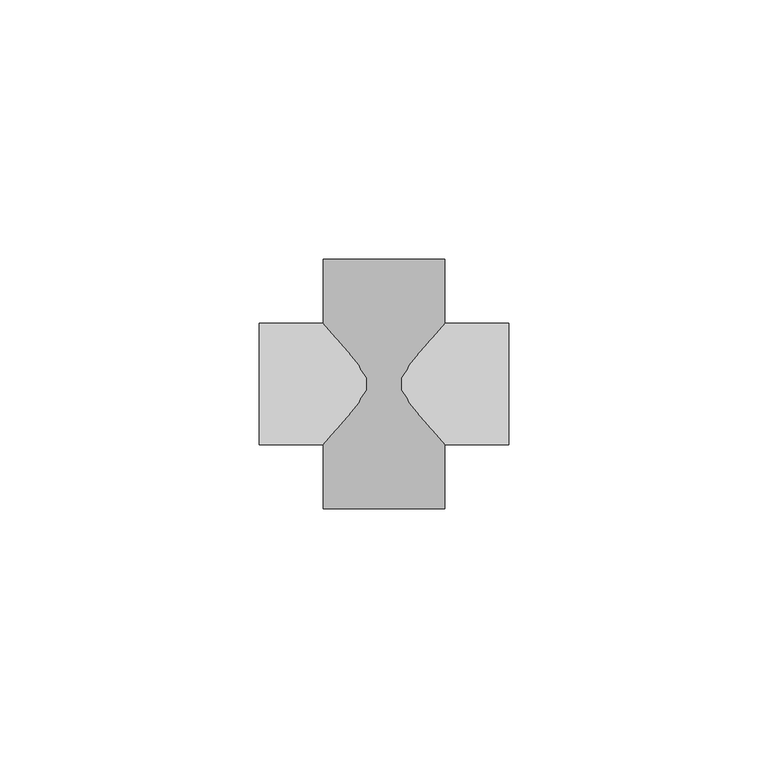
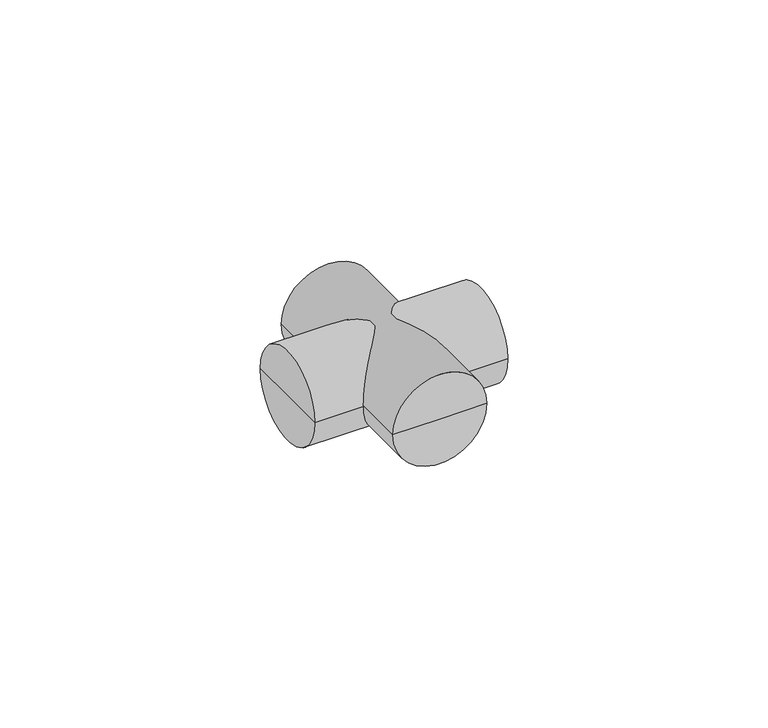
"""IFC4 building model written with IfcOpenShell, lengths in millimetres: pipe fitting geometry, KAN-therm PP czwórnik : KAN-therm PP czwórnik."""

from ifc_helpers import new_model, si_unit, frame, origin, place, context, project, spatial, circle_curve, source, transform, mapped, element, save
from ifc_brep_helpers import plane_surface, cylinder_surface, advanced_brep


def pipe_fitting_f1c90eea(model_context):
    return source(origin(), model_context, "Body", "AdvancedBrep", [
        advanced_brep(
        [(-11.75, 24.0, 0.0), (11.75, 24.0, 0.0), (11.75, -24.0, 0.0), (-11.75, -24.0, 0.0), (0.0, 24.0, 0.0), (0.0, -24.0, 0.0)],
        [
            (0, 1, circle_curve(frame((0.0, 24.0, 0.0), z_axis=(0.0, -1.0, 0.0), x_axis=(1.0, 0.0, 0.0)), 11.75)),
            (1, 2),
            (2, 3, circle_curve(frame((0.0, -24.0, 0.0), z_axis=(0.0, 1.0, 0.0), x_axis=(1.0, 0.0, 0.0)), 11.75)),
            (3, 0),
            (1, 0, circle_curve(frame((0.0, 24.0, 0.0), z_axis=(0.0, -1.0, 0.0), x_axis=(1.0, 0.0, 0.0)), 11.75)),
            (3, 2, circle_curve(frame((0.0, -24.0, 0.0), z_axis=(0.0, 1.0, 0.0), x_axis=(1.0, 0.0, 0.0)), 11.75)),
            (4, 1),
            (0, 4),
            (2, 5),
            (5, 3),
        ],
        [
            cylinder_surface(frame((0.0, 1997.0, 0.0), z_axis=(0.0, 1.0, 0.0), x_axis=(1.0, 0.0, 0.0)), 11.75),
            plane_surface(frame((0.0, 24.0, 0.0), z_axis=(0.0, 1.0, 0.0), x_axis=(1.0, 0.0, 0.0))),
            plane_surface(frame((0.0, -24.0, 0.0), z_axis=(0.0, -1.0, 0.0), x_axis=(1.0, 0.0, 0.0))),
        ],
        [
            (0, [[1, 2, 3, 4]]),
            (0, [[5, -4, 6, -2]]),
            (1, [[7, -1, 8]]),
            (1, [[-8, -5, -7]]),
            (2, [[-3, 9, 10]]),
            (2, [[-6, -10, -9]]),
        ],
    ),
        advanced_brep(
        [(24.0, 0.0, 0.0), (24.0, -11.75, 0.0), (24.0, 11.75, 0.0), (-24.0, 11.75, 0.0), (-24.0, -11.75, 0.0), (-24.0, 0.0, 0.0)],
        [
            (0, 1),
            (1, 2, circle_curve(frame((24.0, 0.0, 0.0), z_axis=(1.0, 0.0, 0.0), x_axis=(0.0, -1.0, 0.0)), 11.75)),
            (2, 0),
            (2, 1, circle_curve(frame((24.0, 0.0, 0.0), z_axis=(1.0, 0.0, 0.0), x_axis=(0.0, -1.0, 0.0)), 11.75)),
            (3, 4, circle_curve(frame((-24.0, 0.0, 0.0), z_axis=(-1.0, 0.0, 0.0), x_axis=(0.0, -1.0, 0.0)), 11.75)),
            (4, 5),
            (5, 3),
            (4, 3, circle_curve(frame((-24.0, 0.0, 0.0), z_axis=(-1.0, 0.0, 0.0), x_axis=(0.0, -1.0, 0.0)), 11.75)),
            (1, 4),
            (3, 2),
        ],
        [
            plane_surface(frame((24.0, 0.0, 0.0), z_axis=(1.0, 0.0, 0.0), x_axis=(0.0, -1.0, 0.0))),
            plane_surface(frame((-24.0, 0.0, 0.0), z_axis=(-1.0, 0.0, 0.0), x_axis=(0.0, -1.0, 0.0))),
            cylinder_surface(frame((1996.5, 0.0, 0.0), z_axis=(1.0, 0.0, 0.0), x_axis=(0.0, -1.0, 0.0)), 11.75),
        ],
        [
            (0, [[1, 2, 3]]),
            (0, [[-3, 4, -1]]),
            (1, [[5, 6, 7]]),
            (1, [[8, -7, -6]]),
            (2, [[-2, 9, -5, 10]]),
            (2, [[-4, -10, -8, -9]]),
        ],
    ),
    ])


if __name__ == "__main__":
    model = new_model("IFC4")
    model_context = context("Model", 3, world=origin())
    ifc_project = project(units=[si_unit("LENGTHUNIT", "METRE", prefix="MILLI")], contexts=[model_context])
    site = spatial("IfcSite", under=ifc_project)
    building = spatial("IfcBuilding", under=site)
    placement = place(None, origin())
    pipe_fitting_shape = pipe_fitting_f1c90eea(model_context)
    element("IfcPipeFitting", 1, ObjectType="KAN-therm PP czwórnik : KAN-therm PP czwórnik", at=placement, inside=building, context=model_context, shape_type="MappedRepresentation", body=[
        mapped(pipe_fitting_shape, transform((0.0, 0.0, 0.0), x_axis=(1.0, 0.0, 0.0), y_axis=(0.0, 1.0, 0.0), z_axis=(0.0, 0.0, 1.0))),
    ])
    save(model, "model.ifc")
